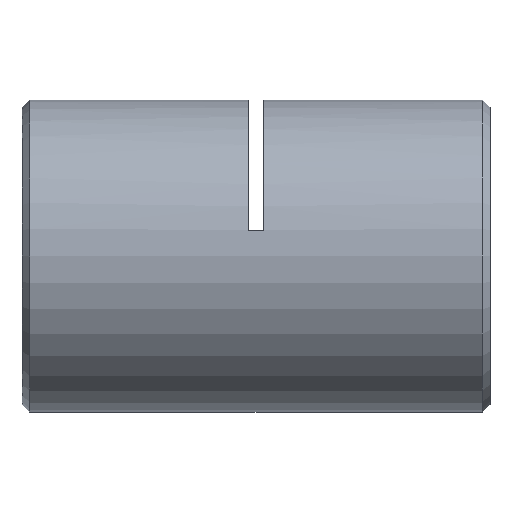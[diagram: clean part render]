
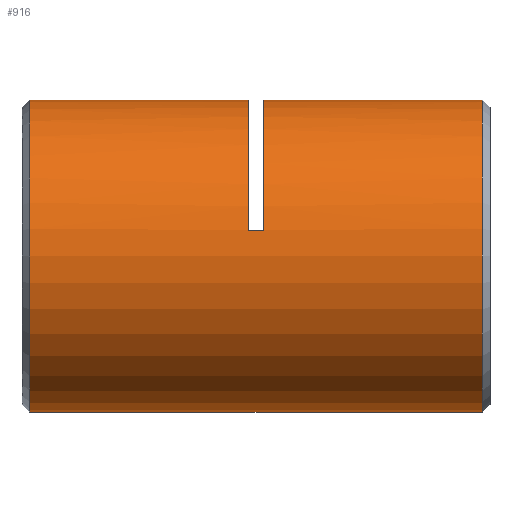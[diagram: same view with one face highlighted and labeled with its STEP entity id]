
A CAD part, left-side view. The second image highlights one B-rep face of the part: STEP entity #916.
In plain terms, the highlighted cylindrical face has radius 10 mm (diameter 20 mm), a partial arc.
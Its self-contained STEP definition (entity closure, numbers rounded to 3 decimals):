
#7 = CARTESIAN_POINT ( 'NONE',  ( 0., 0., -10. ) ) ;
#44 = CARTESIAN_POINT ( 'NONE',  ( -9.86, 15.25, 1.667 ) ) ;
#126 = CIRCLE ( 'NONE', #4546, 10. ) ;
#176 = VECTOR ( 'NONE', #512, 1000. ) ;
#231 = AXIS2_PLACEMENT_3D ( 'NONE', #3287, #2349, #5525 ) ;
#355 = AXIS2_PLACEMENT_3D ( 'NONE', #5541, #5623, #3277 ) ;
#395 = EDGE_CURVE ( 'NONE', #1180, #5035, #3138, .T. ) ;
#512 = DIRECTION ( 'NONE',  ( 0., 1., 0. ) ) ;
#571 = CARTESIAN_POINT ( 'NONE',  ( 0., 0., 10. ) ) ;
#916 = ADVANCED_FACE ( 'NONE', ( #1078 ), #5316, .T. ) ;
#1078 = FACE_OUTER_BOUND ( 'NONE', #1887, .T. ) ;
#1079 = ORIENTED_EDGE ( 'NONE', *, *, #5243, .T. ) ;
#1180 = VERTEX_POINT ( 'NONE', #1736 ) ;
#1207 = LINE ( 'NONE', #7, #176 ) ;
#1374 = EDGE_CURVE ( 'NONE', #4396, #2508, #1207, .T. ) ;
#1468 = EDGE_CURVE ( 'NONE', #4918, #4552, #1550, .T. ) ;
#1550 = LINE ( 'NONE', #571, #5461 ) ;
#1580 = DIRECTION ( 'NONE',  ( 0., 0., 1. ) ) ;
#1599 = EDGE_CURVE ( 'NONE', #1180, #2919, #3123, .T. ) ;
#1736 = CARTESIAN_POINT ( 'NONE',  ( -9.86, 14.75, 1.667 ) ) ;
#1887 = EDGE_LOOP ( 'NONE', ( #3341, #1079, #5516, #3848, #4320, #3781, #2779, #3583 ) ) ;
#2055 = CARTESIAN_POINT ( 'NONE',  ( 0., 0., 0. ) ) ;
#2107 = CARTESIAN_POINT ( 'NONE',  ( 0., 0.75, 0. ) ) ;
#2112 = EDGE_CURVE ( 'NONE', #5005, #2919, #4668, .T. ) ;
#2349 = DIRECTION ( 'NONE',  ( 0., 1., 0. ) ) ;
#2386 = CARTESIAN_POINT ( 'NONE',  ( 0., 0.75, 10. ) ) ;
#2468 = AXIS2_PLACEMENT_3D ( 'NONE', #2055, #4295, #1580 ) ;
#2469 = CIRCLE ( 'NONE', #355, 10. ) ;
#2508 = VERTEX_POINT ( 'NONE', #3697 ) ;
#2572 = EDGE_CURVE ( 'NONE', #5035, #4918, #2469, .T. ) ;
#2654 = DIRECTION ( 'NONE',  ( 0., 1., 0. ) ) ;
#2742 = CARTESIAN_POINT ( 'NONE',  ( 0., 0., 10. ) ) ;
#2779 = ORIENTED_EDGE ( 'NONE', *, *, #1468, .T. ) ;
#2809 = DIRECTION ( 'NONE',  ( 0., 1., 0. ) ) ;
#2919 = VERTEX_POINT ( 'NONE', #5766 ) ;
#3123 = CIRCLE ( 'NONE', #231, 10. ) ;
#3138 = LINE ( 'NONE', #44, #3483 ) ;
#3230 = DIRECTION ( 'NONE',  ( 0., 1., 0. ) ) ;
#3245 = CARTESIAN_POINT ( 'NONE',  ( 0., 15.75, 10. ) ) ;
#3277 = DIRECTION ( 'NONE',  ( 0., 0., 1. ) ) ;
#3287 = CARTESIAN_POINT ( 'NONE',  ( 0., 14.75, 0. ) ) ;
#3341 = ORIENTED_EDGE ( 'NONE', *, *, #1374, .F. ) ;
#3483 = VECTOR ( 'NONE', #2654, 1000. ) ;
#3533 = CARTESIAN_POINT ( 'NONE',  ( 0., 0.75, -10. ) ) ;
#3567 = CIRCLE ( 'NONE', #4429, 10. ) ;
#3583 = ORIENTED_EDGE ( 'NONE', *, *, #5493, .T. ) ;
#3697 = CARTESIAN_POINT ( 'NONE',  ( 0., 29.75, -10. ) ) ;
#3780 = CARTESIAN_POINT ( 'NONE',  ( -9.86, 15.75, 1.667 ) ) ;
#3781 = ORIENTED_EDGE ( 'NONE', *, *, #2572, .T. ) ;
#3848 = ORIENTED_EDGE ( 'NONE', *, *, #1599, .F. ) ;
#3991 = DIRECTION ( 'NONE',  ( 0., 1., 0. ) ) ;
#4295 = DIRECTION ( 'NONE',  ( 0., 1., 0. ) ) ;
#4313 = VECTOR ( 'NONE', #2809, 1000. ) ;
#4320 = ORIENTED_EDGE ( 'NONE', *, *, #395, .T. ) ;
#4396 = VERTEX_POINT ( 'NONE', #3533 ) ;
#4429 = AXIS2_PLACEMENT_3D ( 'NONE', #2107, #3991, #4900 ) ;
#4546 = AXIS2_PLACEMENT_3D ( 'NONE', #5059, #5093, #5042 ) ;
#4552 = VERTEX_POINT ( 'NONE', #4765 ) ;
#4668 = LINE ( 'NONE', #2742, #4313 ) ;
#4765 = CARTESIAN_POINT ( 'NONE',  ( 0., 29.75, 10. ) ) ;
#4900 = DIRECTION ( 'NONE',  ( 0., 0., 1. ) ) ;
#4918 = VERTEX_POINT ( 'NONE', #3245 ) ;
#5005 = VERTEX_POINT ( 'NONE', #2386 ) ;
#5035 = VERTEX_POINT ( 'NONE', #3780 ) ;
#5042 = DIRECTION ( 'NONE',  ( 0., 0., -1. ) ) ;
#5059 = CARTESIAN_POINT ( 'NONE',  ( 0., 29.75, 0. ) ) ;
#5093 = DIRECTION ( 'NONE',  ( 0., -1., 0. ) ) ;
#5243 = EDGE_CURVE ( 'NONE', #4396, #5005, #3567, .T. ) ;
#5316 = CYLINDRICAL_SURFACE ( 'NONE', #2468, 10. ) ;
#5461 = VECTOR ( 'NONE', #3230, 1000. ) ;
#5493 = EDGE_CURVE ( 'NONE', #4552, #2508, #126, .T. ) ;
#5516 = ORIENTED_EDGE ( 'NONE', *, *, #2112, .T. ) ;
#5525 = DIRECTION ( 'NONE',  ( 0., 0., 1. ) ) ;
#5541 = CARTESIAN_POINT ( 'NONE',  ( 0., 15.75, 0. ) ) ;
#5623 = DIRECTION ( 'NONE',  ( 0., 1., 0. ) ) ;
#5766 = CARTESIAN_POINT ( 'NONE',  ( 0., 14.75, 10. ) ) ;
